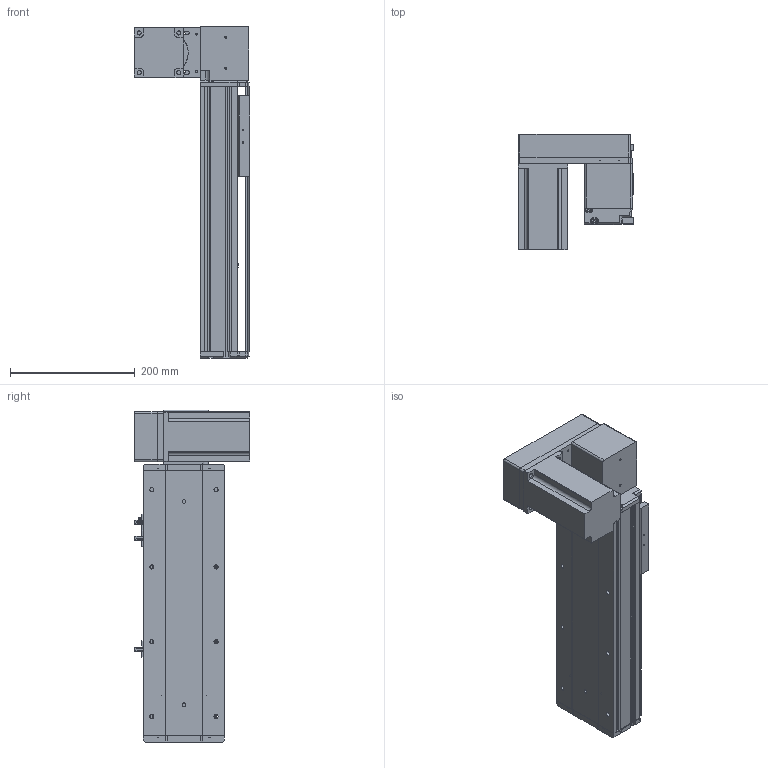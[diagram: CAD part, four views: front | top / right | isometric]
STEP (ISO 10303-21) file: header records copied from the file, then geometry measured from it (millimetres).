
FILE_DESCRIPTION (( 'STEP AP214' ), '1' );
FILE_NAME ('KSD130B-S200-MRD-CM.STEP', '2019-09-21T09:33:42', ( '微软用户' ), ( '微软中国' ), 'SwSTEP 2.0', 'SolidWorks 2014', '' );
FILE_SCHEMA (( 'AUTOMOTIVE_DESIGN' ));
Length unit declared in the file: millimetre
Products named in the file (12): 130宽模组马达安装板连板上下折丝杆同步带; 覜茼え100遵圉猾敕; U倰嫖萇EEㄜSX672; 130宽盖板半封闭同步带-200行程; 130宽马达安装板同步带右-改镜向_默认<按加工>; 130宽马达安装板同步带半封闭; 130宽同步带安装座半封闭; 130宽端盖同步带半封闭; 130宽底板半封闭同步带-200行程; KSD130B-S200-MRD-CM; 130宽模组保护罩上下左右折-同步带; 台达ECMA－C20807AS伺服电机
Assembly tree (13 placements, depth 2):
  KSD130B-S200-MRD-CM
    130宽底板半封闭同步带-200行程
    130宽端盖同步带半封闭
    130宽同步带安装座半封闭
    130宽马达安装板同步带半封闭
    130宽马达安装板同步带右-改镜向_默认<按加工>
    130宽盖板半封闭同步带-200行程
    U倰嫖萇EEㄜSX672  x3
    覜茼え100遵圉猾敕
    130宽模组马达安装板连板上下折丝杆同步带
    台达ECMA－C20807AS伺服电机
    130宽模组保护罩上下左右折-同步带
Bounding box: 186 x 184.8 x 533 mm (x, y, z)
Volume: 2807850.7 mm3; surface area: 694307.5 mm2
Topology: 14 solids, 14 shells, 1337 faces, 3725 edges, 2401 vertices
Faces by surface type: cylinder 616, plane 598, cone 123
Entity records: 41927 total; most frequent: CARTESIAN_POINT 7306, DIRECTION 6479, ORIENTED_EDGE 6190, EDGE_CURVE 3095, AXIS2_PLACEMENT_3D 2334, VERTEX_POINT 2025, VECTOR 1811, LINE 1811
